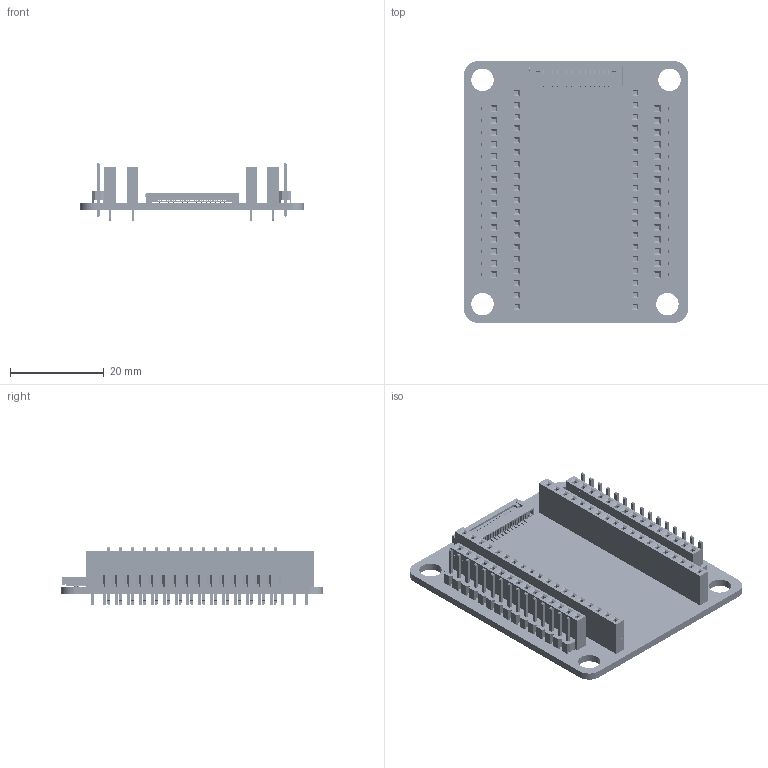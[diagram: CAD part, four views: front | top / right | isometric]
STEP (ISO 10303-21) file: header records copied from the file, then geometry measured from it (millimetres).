
FILE_DESCRIPTION(('Designed by EasyEDA Pro'),'2;1');
FILE_NAME('Open CASCADE Shape Model','2026-09-15T21:15:33',('Author'),( 'Open CASCADE'),'Open CASCADE STEP processor 7.8','Open CASCADE 7.8' ,'Unknown');
FILE_SCHEMA(('AUTOMOTIVE_DESIGN { 1 0 10303 214 1 1 1 1 }'));
Length unit declared in the file: millimetre
Products named in the file (500): EasyEDA PCB Model~CkE6; Board~CkE6; TopCopper~CkE6; BottomCopper~CkE6; TopSilkscreen~CkE6; BottomSilkscreen~CkE6; TopFpcStiffener~CkE6; BottomFpcStiffener~CkE6; U2~HDR-TH_LAIL-PM2.54-19P-L~HDR-TH_19P-P2.54-F-LI-1X19P~CkE6; HDR-TH_LAIL-PM2.54-19P-L~HDR-TH_19P-P2.54-F-LI-1X19P~CkE6; U1~HDR-TH_LAIL-PM2.54-19P-L~HDR-TH_19P-P2.54-F-LI-1X19P~CkE6; H9~HDR-TH_15P-P2.54-V-M~HDR-TH_15P-P2.54-V-F~CkE6; HDR-TH_15P-P2.54-V-M~HDR-TH_15P-P2.54-V-F~CkE6; H7~HDR-TH_15P-P2.54-V-M~HDR-TH_15P-P2.54-V-F~CkE6; H8~HDR-TH_15P-P2.54-V-M~HDR-TH_15P-P2.54-M-LI-1X15P~CkE6; HDR-TH_15P-P2.54-V-M~HDR-TH_15P-P2.54-M-LI-1X15P~CkE6; H6~HDR-TH_15P-P2.54-V-M~HDR-TH_15P-P2.54-M-LI-1X15P~CkE6; U32~FPC-SMD_15P-P1.00_XUNPU_FPC-1.0FX-15PWCR-H20~FPC-SMD_15P-P1.00_
XUNPU_FPC-1.0FX-15PWCR-H20~CkE6; FPC-SMD_15P-P1.00_XUNPU_FPC-1.0FX-15PWCR-H20~FPC-SMD_15P-P1.00_XUNPU_
FPC-1.0FX-15PWCR-H20~CkE6
Assembly tree (503 placements, depth 3):
  EasyEDA PCB Model~CkE6
    Board~CkE6
    TopCopper~CkE6
    BottomCopper~CkE6
    TopSilkscreen~CkE6
      TopSilkscreen~CkE6
      TopSilkscreen~CkE6
      TopSilkscreen~CkE6
      TopSilkscreen~CkE6
      TopSilkscreen~CkE6
      TopSilkscreen~CkE6
      TopSilkscreen~CkE6
      TopSilkscreen~CkE6
      TopSilkscreen~CkE6
      TopSilkscreen~CkE6
      TopSilkscreen~CkE6
      TopSilkscreen~CkE6
      TopSilkscreen~CkE6
      TopSilkscreen~CkE6
      TopSilkscreen~CkE6
      TopSilkscreen~CkE6
      TopSilkscreen~CkE6
      TopSilkscreen~CkE6
      TopSilkscreen~CkE6
      TopSilkscreen~CkE6
      TopSilkscreen~CkE6
      TopSilkscreen~CkE6
      TopSilkscreen~CkE6
      TopSilkscreen~CkE6
      TopSilkscreen~CkE6
      TopSilkscreen~CkE6
      TopSilkscreen~CkE6
      TopSilkscreen~CkE6
      TopSilkscreen~CkE6
      TopSilkscreen~CkE6
      TopSilkscreen~CkE6
      TopSilkscreen~CkE6
      TopSilkscreen~CkE6
      TopSilkscreen~CkE6
      TopSilkscreen~CkE6
      TopSilkscreen~CkE6
      TopSilkscreen~CkE6
      TopSilkscreen~CkE6
      TopSilkscreen~CkE6
      TopSilkscreen~CkE6
      TopSilkscreen~CkE6
      TopSilkscreen~CkE6
      TopSilkscreen~CkE6
      TopSilkscreen~CkE6
      TopSilkscreen~CkE6
      TopSilkscreen~CkE6
      TopSilkscreen~CkE6
      TopSilkscreen~CkE6
      TopSilkscreen~CkE6
      TopSilkscreen~CkE6
      TopSilkscreen~CkE6
      TopSilkscreen~CkE6
      TopSilkscreen~CkE6
      TopSilkscreen~CkE6
      TopSilkscreen~CkE6
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Bounding box: 47.97 x 55.97 x 12.5 mm (x, y, z)
Volume: 8055.9 mm3; surface area: 14364.4 mm2
Topology: 56 solids, 562 shells, 5331 faces, 48857 edges, 44456 vertices
Faces by surface type: plane 4241, bspline 554, cylinder 390, extrusion 146
Entity records: 426142 total; most frequent: CARTESIAN_POINT 96357, ORIENTED_EDGE 52082, DIRECTION 51204, EDGE_CURVE 44028, VECTOR 42492, LINE 42419, VERTEX_POINT 41282, AXIS2_PLACEMENT_3D 4356
